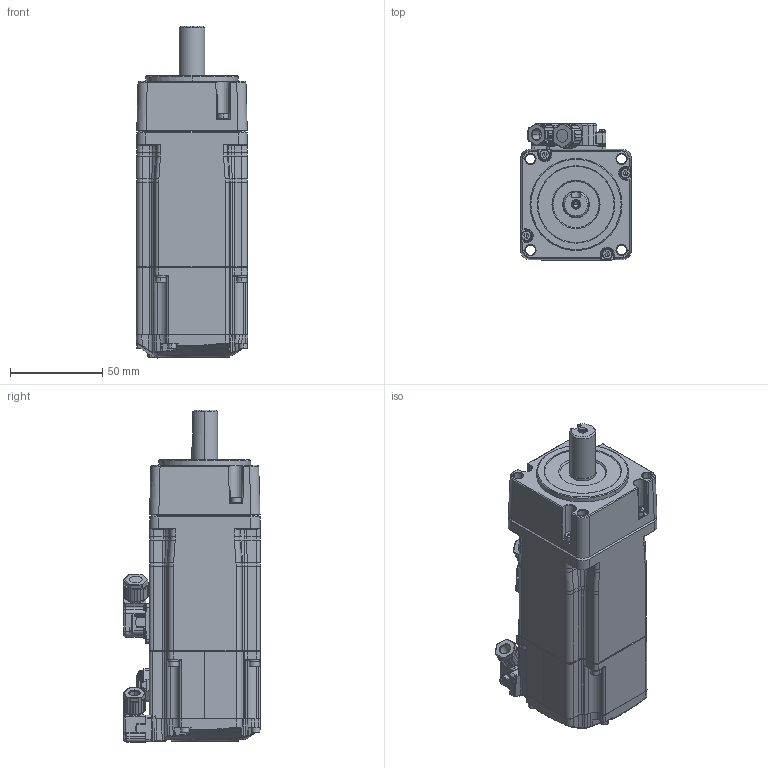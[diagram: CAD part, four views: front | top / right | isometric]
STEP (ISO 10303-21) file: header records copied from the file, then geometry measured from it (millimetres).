
FILE_DESCRIPTION((''),'2;1');
FILE_NAME('ASM0004_ASM','2024-01-24T10:52:26',('TED.FANG'),(''),'CREO PARAMETRIC BY PTC INC, 2020454','CREO PARAMETRIC BY PTC INC, 2020454','');
FILE_SCHEMA(('CONFIG_CONTROL_DESIGN'));
Products named in the file (4): ECM-B3G-C20604SB1_V1__SW0002; PLUG-MCSCREWTYPE7S-0506_2; PLUG-MTSCREWTYPE7A6S_T0_2; ASM0004_ASM
Assembly tree (3 placements, depth 2):
  ASM0004_ASM
    ECM-B3G-C20604SB1_V1__SW0002
    PLUG-MCSCREWTYPE7S-0506_2
    PLUG-MTSCREWTYPE7A6S_T0_2
Bounding box: 60.6 x 74.4 x 180.3 mm (x, y, z)
Volume: 496997.1 mm3; surface area: 55220.4 mm2
Topology: 3 solids, 3 shells, 3348 faces, 8698 edges, 5435 vertices
Faces by surface type: plane 1318, cylinder 1003, torus 333, bspline 237, extrusion 222, cone 203, sphere 32
Entity records: 128925 total; most frequent: CARTESIAN_POINT 49965, ORIENTED_EDGE 17284, DIRECTION 15208, EDGE_CURVE 8642, VERTEX_POINT 5435, AXIS2_PLACEMENT_3D 5319, VECTOR 4570, LINE 4348
